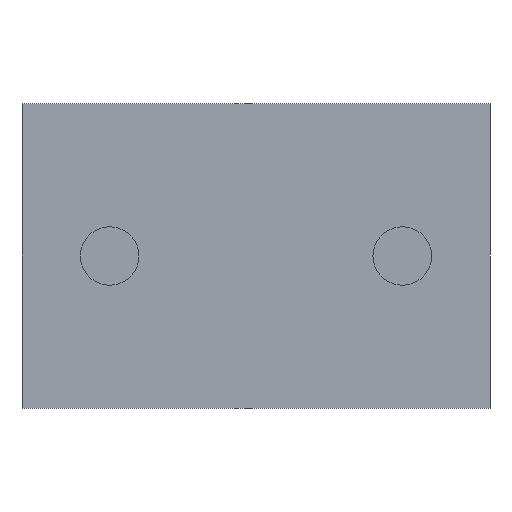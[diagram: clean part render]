
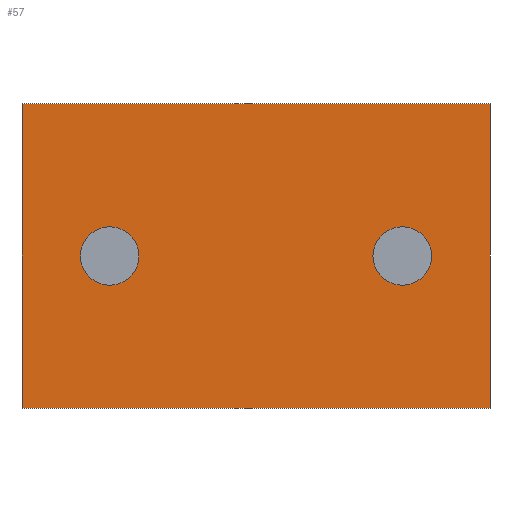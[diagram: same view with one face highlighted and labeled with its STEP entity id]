
A CAD part, left-side view. The second image highlights one B-rep face of the part: STEP entity #57.
In plain terms, the highlighted planar face has unit normal (-1, 0, 0).
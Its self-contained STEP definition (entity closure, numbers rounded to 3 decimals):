
#57=ADVANCED_FACE('',(#125,#126,#127),#128,.T.);
#125=FACE_OUTER_BOUND('',#202,.T.);
#126=FACE_BOUND('',#203,.T.);
#127=FACE_BOUND('',#204,.T.);
#128=PLANE('',#205);
#202=EDGE_LOOP('',(#304,#305,#306,#307));
#203=EDGE_LOOP('',(#308,#309));
#204=EDGE_LOOP('',(#310,#311));
#205=AXIS2_PLACEMENT_3D('',#312,#313,#314);
#304=ORIENTED_EDGE('',*,*,#477,.T.);
#305=ORIENTED_EDGE('',*,*,#478,.F.);
#306=ORIENTED_EDGE('',*,*,#479,.T.);
#307=ORIENTED_EDGE('',*,*,#480,.T.);
#308=ORIENTED_EDGE('',*,*,#473,.T.);
#309=ORIENTED_EDGE('',*,*,#481,.T.);
#310=ORIENTED_EDGE('',*,*,#482,.T.);
#311=ORIENTED_EDGE('',*,*,#483,.T.);
#312=CARTESIAN_POINT('',(211.0,0.0,-9.0));
#313=DIRECTION('',(-1.0,0.0,0.0));
#314=DIRECTION('',(0.0,-1.0,0.0));
#473=EDGE_CURVE('',#562,#566,#568,.T.);
#477=EDGE_CURVE('',#572,#573,#574,.T.);
#478=EDGE_CURVE('',#575,#573,#576,.T.);
#479=EDGE_CURVE('',#575,#577,#578,.T.);
#480=EDGE_CURVE('',#577,#572,#579,.T.);
#481=EDGE_CURVE('',#566,#562,#580,.T.);
#482=EDGE_CURVE('',#581,#582,#583,.T.);
#483=EDGE_CURVE('',#582,#581,#584,.T.);
#562=VERTEX_POINT('',#684);
#566=VERTEX_POINT('',#689);
#568=CIRCLE('',#692,10.0);
#572=VERTEX_POINT('',#696);
#573=VERTEX_POINT('',#697);
#574=LINE('',#698,#699);
#575=VERTEX_POINT('',#700);
#576=LINE('',#701,#702);
#577=VERTEX_POINT('',#703);
#578=LINE('',#704,#705);
#579=LINE('',#706,#707);
#580=CIRCLE('',#708,10.0);
#581=VERTEX_POINT('',#709);
#582=VERTEX_POINT('',#710);
#583=CIRCLE('',#711,10.0);
#584=CIRCLE('',#712,10.0);
#684=CARTESIAN_POINT('',(211.0,50.0,33.0));
#689=CARTESIAN_POINT('',(211.0,50.0,53.0));
#692=AXIS2_PLACEMENT_3D('',#806,#807,#808);
#696=CARTESIAN_POINT('',(211.0,-80.0,95.0));
#697=CARTESIAN_POINT('',(211.0,80.0,95.0));
#698=CARTESIAN_POINT('',(211.0,80.0,95.0));
#699=VECTOR('',#812,1.0);
#700=CARTESIAN_POINT('',(211.0,80.0,-9.0));
#701=CARTESIAN_POINT('',(211.0,80.0,-9.0));
#702=VECTOR('',#813,1.0);
#703=CARTESIAN_POINT('',(211.0,-80.0,-9.0));
#704=CARTESIAN_POINT('',(211.0,80.0,-9.0));
#705=VECTOR('',#814,1.0);
#706=CARTESIAN_POINT('',(211.0,-80.0,-9.0));
#707=VECTOR('',#815,1.0);
#708=AXIS2_PLACEMENT_3D('',#816,#817,#818);
#709=CARTESIAN_POINT('',(211.0,-50.0,33.0));
#710=CARTESIAN_POINT('',(211.0,-50.0,53.0));
#711=AXIS2_PLACEMENT_3D('',#819,#820,#821);
#712=AXIS2_PLACEMENT_3D('',#822,#823,#824);
#806=CARTESIAN_POINT('',(211.0,50.0,43.0));
#807=DIRECTION('',(1.0,0.0,0.0));
#808=DIRECTION('',(0.0,0.0,-1.0));
#812=DIRECTION('',(0.0,1.0,0.0));
#813=DIRECTION('',(0.0,0.0,1.0));
#814=DIRECTION('',(0.0,-1.0,0.0));
#815=DIRECTION('',(0.0,0.0,1.0));
#816=CARTESIAN_POINT('',(211.0,50.0,43.0));
#817=DIRECTION('',(1.0,0.0,0.0));
#818=DIRECTION('',(0.0,0.0,-1.0));
#819=CARTESIAN_POINT('',(211.0,-50.0,43.0));
#820=DIRECTION('',(1.0,0.0,0.0));
#821=DIRECTION('',(0.0,0.0,-1.0));
#822=CARTESIAN_POINT('',(211.0,-50.0,43.0));
#823=DIRECTION('',(1.0,0.0,0.0));
#824=DIRECTION('',(0.0,0.0,-1.0));
